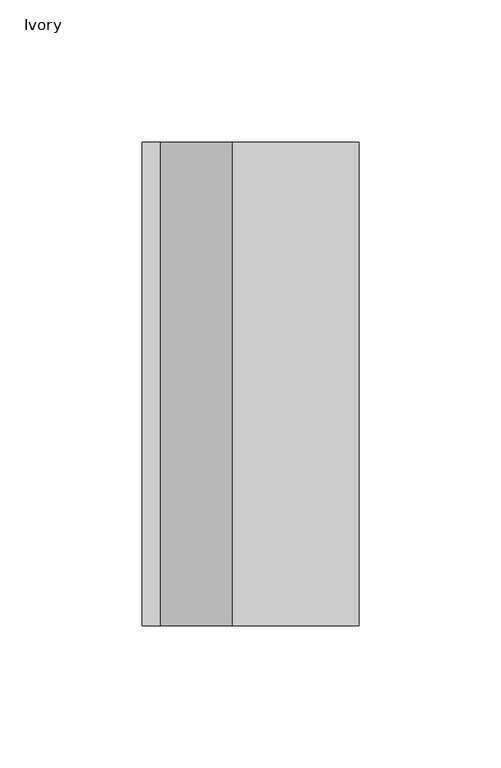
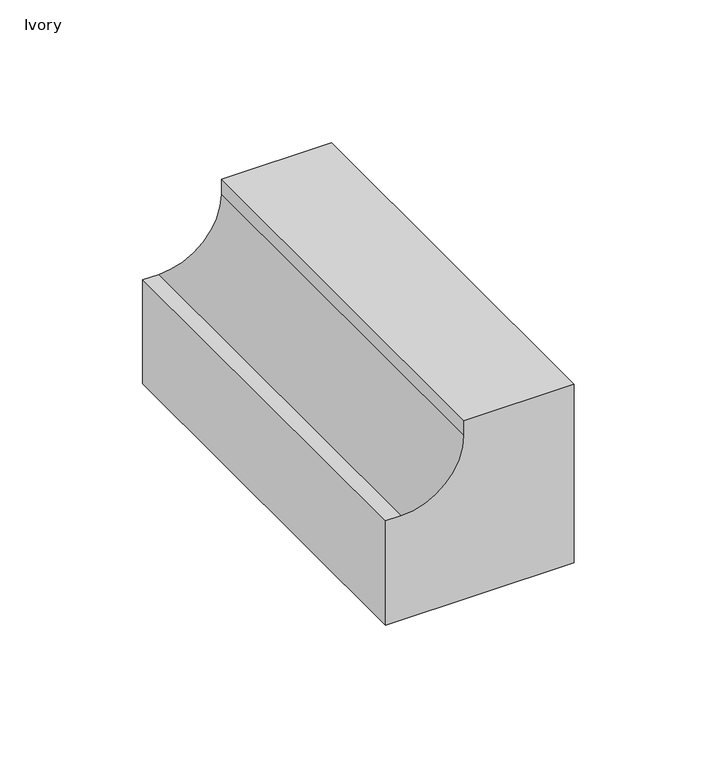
"""IFC4 building model written with IfcOpenShell, lengths in millimetres: proxy geometry, Elbow-5500_Series-Wiremold-Internal : Ivory."""

from ifc_helpers import new_model, si_unit, point, frame, frame_2d, origin, place, context, project, spatial, polyline, circle_curve, trimmed, segment, composite_curve, outline, extrude, source, transform, mapped, element, save


def ivory_0786d39a(model_context):
    return source(origin(), model_context, "Body", "SweptSolid", [
        extrude(outline(composite_curve([segment(polyline([(76.2, 0.0), (76.2, -44.45), (69.85, -44.45)]), True, "CONTINUOUS"), segment(trimmed(circle_curve(frame_2d((69.85, -69.85)), 25.4), [point((69.85, -44.45))], [point((44.45, -69.85))], True, "CARTESIAN"), True, "CONTINUOUS"), segment(polyline([(44.45, -69.85), (44.45, -76.2), (0.0, -76.2), (0.0, 0.0), (76.2, 0.0)]), True, "CONTINUOUS")], self_intersect=False)), frame((0.0, -84.9376, 0.0), z_axis=(0.0, 1.0, 0.0), x_axis=(0.0, 0.0, 1.0)), (0.0, 0.0, 1.0), 169.8752),
    ])


if __name__ == "__main__":
    model = new_model("IFC4")
    model_context = context("Model", 3, world=origin())
    ifc_project = project(units=[si_unit("LENGTHUNIT", "METRE", prefix="MILLI")], contexts=[model_context])
    site = spatial("IfcSite", under=ifc_project)
    building = spatial("IfcBuilding", under=site)
    placement = place(None, origin())
    ivory_shape = ivory_0786d39a(model_context)
    element("IfcBuildingElementProxy", 1, Name="Elbow-5500_Series-Wiremold-Internal : Ivory", ObjectType="Elbow-5500_Series-Wiremold-Internal : Ivory", at=placement, inside=building, context=model_context, shape_type="MappedRepresentation", body=[
        mapped(ivory_shape, transform((0.0, 0.0, 0.0), x_axis=(1.0, 0.0, 0.0), y_axis=(0.0, 1.0, 0.0), z_axis=(0.0, 0.0, 1.0))),
    ])
    save(model, "model.ifc")
